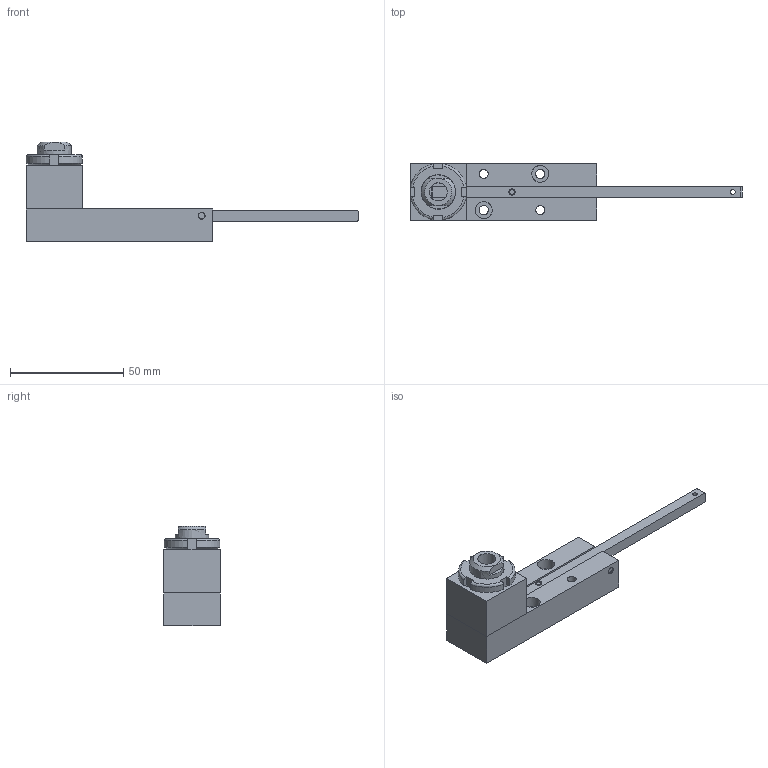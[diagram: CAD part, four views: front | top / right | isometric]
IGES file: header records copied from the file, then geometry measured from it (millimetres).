
Global section: file name: 183_00; native system: Autodesk Inventor 2016; preprocessor: unknown; author: AP; date: 20160830.090821; units: millimetre
Bounding box: 146.5 x 25 x 44 mm (x, y, z)
Volume: 40770.5 mm3; surface area: 22331.5 mm2
Topology: 11 solids, 11 shells, 186 faces, 513 edges, 358 vertices
Faces by surface type: bspline 186
